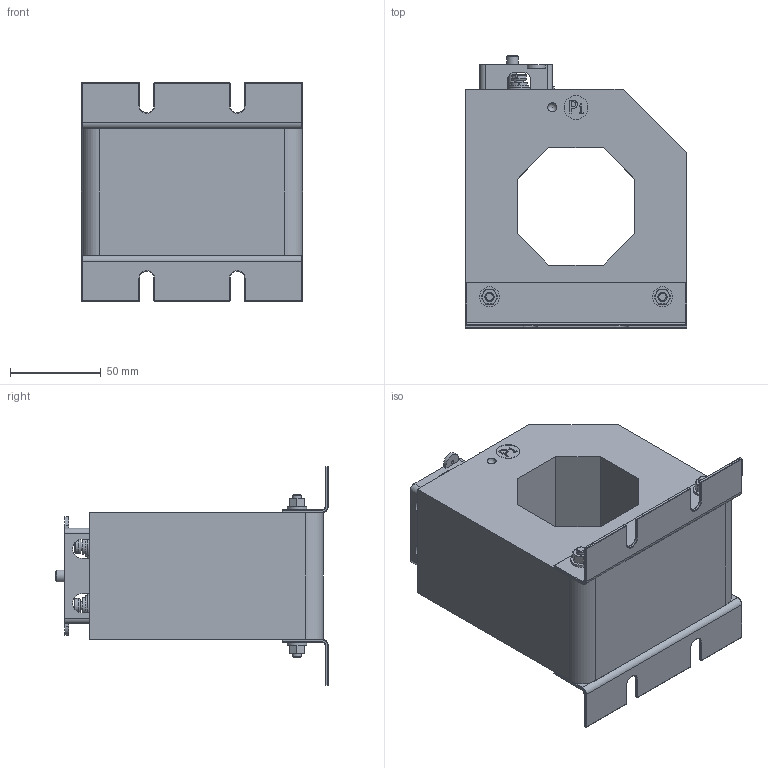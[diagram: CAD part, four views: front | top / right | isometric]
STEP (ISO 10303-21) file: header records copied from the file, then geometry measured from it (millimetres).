
FILE_DESCRIPTION(/* description */ (''),/* implementation_level */ '2;1');
FILE_NAME(/* name */ 'T:\EngMecanica\DESENHOS INVENTOR\Catalogo 2019\Medição\KR-712\KR-712.stp',/* time_stamp */ '2021-08-02T11:44:23-03:00',/* author */ ('jose.luis'),/* organization */ (''),/* preprocessor_version */ 'ST-DEVELOPER v18.1',/* originating_system */ 'Autodesk Inventor 2021',/* authorisation */ '');
FILE_SCHEMA (('AUTOMOTIVE_DESIGN { 1 0 10303 214 3 1 1 }'));
Length unit declared in the file: millimetre
Products named in the file (15): KR-712; corpo; Cantoneira KR-801; DIN 976-1 - M5 x 90 - A; DIN 976-1 - M5 x 90 - A_1; Cantoneira KR-801_MIR; AS 1112 - M5  Type 5; borne quadrado; Bucha redonda borne; JIS B 1101 - A M5 x 6; JIS B 1101 - A M5 x 6_1; ANSI B18.22M - 5 N; CSN 02 1740 - 6; Protetor de borne; parafuso recartilhado
Assembly tree (24 placements, depth 2):
  KR-712
    corpo
    Cantoneira KR-801
    DIN 976-1 - M5 x 90 - A
    DIN 976-1 - M5 x 90 - A_1
    ANSI B18.22M - 5 N  x6
    AS 1112 - M5  Type 5  x4
    Cantoneira KR-801_MIR
    borne quadrado
    Bucha redonda borne  x2
    JIS B 1101 - A M5 x 6
    JIS B 1101 - A M5 x 6_1
    CSN 02 1740 - 6  x2
    Protetor de borne
    parafuso recartilhado
Bounding box: 122 x 150.3 x 120.8 mm (x, y, z)
Volume: 831320.8 mm3; surface area: 113576 mm2
Topology: 27 solids, 27 shells, 575 faces, 1328 edges, 824 vertices
Faces by surface type: plane 237, cylinder 153, cone 68, bspline 53, sphere 34, torus 30
Full cylindrical faces by diameter (mm): 1.8 x2, 3.242 x1, 4 x1, 4.134 x6, 4.51 x2, 4.9 x1, 5 x10, 5.6 x6, 6.5 x1, 7 x1, 11 x12, 13 x5
Entity records: 15004 total; most frequent: CARTESIAN_POINT 3333, DIRECTION 2279, ORIENTED_EDGE 2256, EDGE_CURVE 1128, AXIS2_PLACEMENT_3D 834, VERTEX_POINT 705, LINE 611, VECTOR 611
